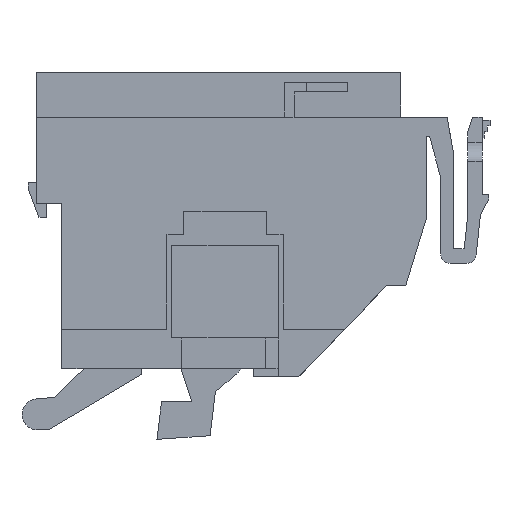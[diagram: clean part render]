
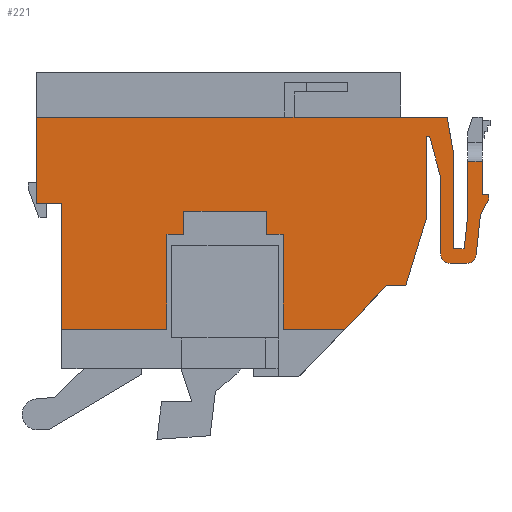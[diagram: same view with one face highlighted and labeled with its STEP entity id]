
A CAD part, front view. The second image highlights one B-rep face of the part: STEP entity #221.
In plain terms, the highlighted planar face has unit normal (0, -1, 0).
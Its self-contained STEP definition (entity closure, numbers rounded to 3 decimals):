
#75=CIRCLE('',#6119,1.);
#76=CIRCLE('',#6120,1.);
#221=ADVANCED_FACE('',(#770),#507,.T.);
#507=PLANE('',#6121);
#770=FACE_OUTER_BOUND('',#1052,.T.);
#1052=EDGE_LOOP('',(#1860,#1861,#1862,#1863,#1864,#1865,#1866,#1867,#1868,
#1869,#1870,#1871,#1872,#1873,#1874,#1875,#1876,#1877,#1878,#1879,#1880,
#1881,#1882,#1883,#1884,#1885,#1886,#1887,#1888,#1889,#1890,#1891,#1892,
#1893));
#1860=ORIENTED_EDGE('',*,*,#3642,.F.);
#1861=ORIENTED_EDGE('',*,*,#4017,.F.);
#1862=ORIENTED_EDGE('',*,*,#4018,.F.);
#1863=ORIENTED_EDGE('',*,*,#4019,.F.);
#1864=ORIENTED_EDGE('',*,*,#4020,.F.);
#1865=ORIENTED_EDGE('',*,*,#4021,.F.);
#1866=ORIENTED_EDGE('',*,*,#4022,.F.);
#1867=ORIENTED_EDGE('',*,*,#3647,.T.);
#1868=ORIENTED_EDGE('',*,*,#4023,.T.);
#1869=ORIENTED_EDGE('',*,*,#3891,.T.);
#1870=ORIENTED_EDGE('',*,*,#3917,.T.);
#1871=ORIENTED_EDGE('',*,*,#4024,.T.);
#1872=ORIENTED_EDGE('',*,*,#4025,.T.);
#1873=ORIENTED_EDGE('',*,*,#4026,.T.);
#1874=ORIENTED_EDGE('',*,*,#4027,.T.);
#1875=ORIENTED_EDGE('',*,*,#4028,.T.);
#1876=ORIENTED_EDGE('',*,*,#4029,.T.);
#1877=ORIENTED_EDGE('',*,*,#4030,.T.);
#1878=ORIENTED_EDGE('',*,*,#4031,.T.);
#1879=ORIENTED_EDGE('',*,*,#4032,.T.);
#1880=ORIENTED_EDGE('',*,*,#4033,.T.);
#1881=ORIENTED_EDGE('',*,*,#4034,.T.);
#1882=ORIENTED_EDGE('',*,*,#4035,.T.);
#1883=ORIENTED_EDGE('',*,*,#4036,.F.);
#1884=ORIENTED_EDGE('',*,*,#4037,.T.);
#1885=ORIENTED_EDGE('',*,*,#4038,.T.);
#1886=ORIENTED_EDGE('',*,*,#4039,.T.);
#1887=ORIENTED_EDGE('',*,*,#4040,.T.);
#1888=ORIENTED_EDGE('',*,*,#4041,.T.);
#1889=ORIENTED_EDGE('',*,*,#3579,.T.);
#1890=ORIENTED_EDGE('',*,*,#3982,.T.);
#1891=ORIENTED_EDGE('',*,*,#3980,.F.);
#1892=ORIENTED_EDGE('',*,*,#3940,.T.);
#1893=ORIENTED_EDGE('',*,*,#3931,.T.);
#3009=VERTEX_POINT('',#7894);
#3010=VERTEX_POINT('',#7896);
#3066=VERTEX_POINT('',#8021);
#3069=VERTEX_POINT('',#8026);
#3074=VERTEX_POINT('',#8039);
#3075=VERTEX_POINT('',#8040);
#3269=VERTEX_POINT('',#8514);
#3270=VERTEX_POINT('',#8516);
#3288=VERTEX_POINT('',#8565);
#3298=VERTEX_POINT('',#8595);
#3304=VERTEX_POINT('',#8613);
#3326=VERTEX_POINT('',#8677);
#3353=VERTEX_POINT('',#8755);
#3354=VERTEX_POINT('',#8757);
#3355=VERTEX_POINT('',#8759);
#3356=VERTEX_POINT('',#8761);
#3357=VERTEX_POINT('',#8763);
#3358=VERTEX_POINT('',#8767);
#3359=VERTEX_POINT('',#8769);
#3360=VERTEX_POINT('',#8771);
#3361=VERTEX_POINT('',#8773);
#3362=VERTEX_POINT('',#8775);
#3363=VERTEX_POINT('',#8777);
#3364=VERTEX_POINT('',#8779);
#3365=VERTEX_POINT('',#8781);
#3366=VERTEX_POINT('',#8783);
#3367=VERTEX_POINT('',#8785);
#3368=VERTEX_POINT('',#8787);
#3369=VERTEX_POINT('',#8789);
#3370=VERTEX_POINT('',#8791);
#3371=VERTEX_POINT('',#8793);
#3372=VERTEX_POINT('',#8795);
#3373=VERTEX_POINT('',#8797);
#3374=VERTEX_POINT('',#8799);
#3579=EDGE_CURVE('',#3010,#3009,#4434,.T.);
#3642=EDGE_CURVE('',#3069,#3066,#4496,.T.);
#3647=EDGE_CURVE('',#3074,#3075,#4501,.T.);
#3891=EDGE_CURVE('',#3269,#3270,#4734,.T.);
#3917=EDGE_CURVE('',#3270,#3288,#4760,.T.);
#3931=EDGE_CURVE('',#3298,#3066,#4774,.T.);
#3940=EDGE_CURVE('',#3304,#3298,#4783,.T.);
#3980=EDGE_CURVE('',#3304,#3326,#4823,.T.);
#3982=EDGE_CURVE('',#3009,#3326,#4825,.T.);
#4017=EDGE_CURVE('',#3353,#3069,#4860,.T.);
#4018=EDGE_CURVE('',#3354,#3353,#4861,.T.);
#4019=EDGE_CURVE('',#3355,#3354,#4862,.T.);
#4020=EDGE_CURVE('',#3356,#3355,#4863,.T.);
#4021=EDGE_CURVE('',#3357,#3356,#4864,.T.);
#4022=EDGE_CURVE('',#3074,#3357,#4865,.T.);
#4023=EDGE_CURVE('',#3075,#3269,#4866,.T.);
#4024=EDGE_CURVE('',#3288,#3358,#4867,.T.);
#4025=EDGE_CURVE('',#3358,#3359,#4868,.T.);
#4026=EDGE_CURVE('',#3359,#3360,#4869,.T.);
#4027=EDGE_CURVE('',#3360,#3361,#4870,.T.);
#4028=EDGE_CURVE('',#3361,#3362,#75,.T.);
#4029=EDGE_CURVE('',#3362,#3363,#4871,.T.);
#4030=EDGE_CURVE('',#3363,#3364,#76,.T.);
#4031=EDGE_CURVE('',#3364,#3365,#4872,.T.);
#4032=EDGE_CURVE('',#3365,#3366,#4873,.T.);
#4033=EDGE_CURVE('',#3366,#3367,#4874,.T.);
#4034=EDGE_CURVE('',#3367,#3368,#4875,.T.);
#4035=EDGE_CURVE('',#3368,#3369,#4876,.T.);
#4036=EDGE_CURVE('',#3370,#3369,#4877,.T.);
#4037=EDGE_CURVE('',#3370,#3371,#4878,.T.);
#4038=EDGE_CURVE('',#3371,#3372,#4879,.T.);
#4039=EDGE_CURVE('',#3372,#3373,#4880,.T.);
#4040=EDGE_CURVE('',#3373,#3374,#4881,.T.);
#4041=EDGE_CURVE('',#3374,#3010,#4882,.T.);
#4434=LINE('',#7895,#5244);
#4496=LINE('',#8027,#5306);
#4501=LINE('',#8038,#5311);
#4734=LINE('',#8517,#5544);
#4760=LINE('',#8566,#5570);
#4774=LINE('',#8594,#5584);
#4783=LINE('',#8612,#5593);
#4823=LINE('',#8680,#5633);
#4825=LINE('',#8684,#5635);
#4860=LINE('',#8754,#5670);
#4861=LINE('',#8756,#5671);
#4862=LINE('',#8758,#5672);
#4863=LINE('',#8760,#5673);
#4864=LINE('',#8762,#5674);
#4865=LINE('',#8764,#5675);
#4866=LINE('',#8765,#5676);
#4867=LINE('',#8766,#5677);
#4868=LINE('',#8768,#5678);
#4869=LINE('',#8770,#5679);
#4870=LINE('',#8772,#5680);
#4871=LINE('',#8776,#5681);
#4872=LINE('',#8780,#5682);
#4873=LINE('',#8782,#5683);
#4874=LINE('',#8784,#5684);
#4875=LINE('',#8786,#5685);
#4876=LINE('',#8788,#5686);
#4877=LINE('',#8790,#5687);
#4878=LINE('',#8792,#5688);
#4879=LINE('',#8794,#5689);
#4880=LINE('',#8796,#5690);
#4881=LINE('',#8798,#5691);
#4882=LINE('',#8800,#5692);
#5244=VECTOR('',#6393,1.);
#5306=VECTOR('',#6475,1.);
#5311=VECTOR('',#6484,1.);
#5544=VECTOR('',#6815,1.);
#5570=VECTOR('',#6851,1.);
#5584=VECTOR('',#6875,1.);
#5593=VECTOR('',#6890,1.);
#5633=VECTOR('',#6940,1.);
#5635=VECTOR('',#6944,1.);
#5670=VECTOR('',#6999,1.);
#5671=VECTOR('',#7000,1.);
#5672=VECTOR('',#7001,1.);
#5673=VECTOR('',#7002,1.);
#5674=VECTOR('',#7003,1.);
#5675=VECTOR('',#7004,1.);
#5676=VECTOR('',#7005,1.);
#5677=VECTOR('',#7006,1.);
#5678=VECTOR('',#7007,1.);
#5679=VECTOR('',#7008,1.);
#5680=VECTOR('',#7009,1.);
#5681=VECTOR('',#7012,1.);
#5682=VECTOR('',#7015,1.);
#5683=VECTOR('',#7016,1.);
#5684=VECTOR('',#7017,1.);
#5685=VECTOR('',#7018,1.);
#5686=VECTOR('',#7019,1.);
#5687=VECTOR('',#7020,1.);
#5688=VECTOR('',#7021,1.);
#5689=VECTOR('',#7022,1.);
#5690=VECTOR('',#7023,1.);
#5691=VECTOR('',#7024,1.);
#5692=VECTOR('',#7025,1.);
#6119=AXIS2_PLACEMENT_3D('',#8774,#7010,#7011);
#6120=AXIS2_PLACEMENT_3D('',#8778,#7013,#7014);
#6121=AXIS2_PLACEMENT_3D('',#8801,#7026,#7027);
#6393=DIRECTION('',(-1.,0.,0.));
#6475=DIRECTION('',(0.,0.,-1.));
#6484=DIRECTION('',(1.,0.,0.));
#6815=DIRECTION('',(1.,0.,0.));
#6851=DIRECTION('',(0.292,0.,0.956));
#6875=DIRECTION('',(1.,0.,0.));
#6890=DIRECTION('',(0.,0.,-1.));
#6940=DIRECTION('',(-1.,0.,0.));
#6944=DIRECTION('',(0.,0.,-1.));
#6999=DIRECTION('',(-1.,0.,0.));
#7000=DIRECTION('',(0.,0.,-1.));
#7001=DIRECTION('',(-1.,0.,0.));
#7002=DIRECTION('',(0.,0.,1.));
#7003=DIRECTION('',(-1.,0.,0.));
#7004=DIRECTION('',(0.,0.,1.));
#7005=DIRECTION('',(0.693,0.,0.721));
#7006=DIRECTION('',(0.,0.,1.));
#7007=DIRECTION('',(1.,0.,0.));
#7008=DIRECTION('',(0.259,0.,-0.966));
#7009=DIRECTION('',(0.,0.,-1.));
#7010=DIRECTION('',(0.,-1.,0.));
#7011=DIRECTION('',(-1.,0.,0.));
#7012=DIRECTION('',(1.,0.,0.));
#7013=DIRECTION('',(0.,-1.,0.));
#7014=DIRECTION('',(-1.,0.,0.));
#7015=DIRECTION('',(0.105,0.,0.995));
#7016=DIRECTION('',(0.444,0.,0.896));
#7017=DIRECTION('',(0.,0.,1.));
#7018=DIRECTION('',(-1.,0.,0.));
#7019=DIRECTION('',(0.,0.,1.));
#7020=DIRECTION('',(1.,0.,0.));
#7021=DIRECTION('',(0.,0.,-1.));
#7022=DIRECTION('',(-0.105,0.,-0.995));
#7023=DIRECTION('',(-1.,0.,0.));
#7024=DIRECTION('',(0.,0.,1.));
#7025=DIRECTION('',(-0.174,0.,0.985));
#7026=DIRECTION('',(0.,-1.,0.));
#7027=DIRECTION('',(0.,0.,1.));
#7894=CARTESIAN_POINT('',(-37.6,-13.15,-4.6));
#7895=CARTESIAN_POINT('',(2.6,-13.15,-4.6));
#7896=CARTESIAN_POINT('',(4.776,-13.15,-4.6));
#8021=CARTESIAN_POINT('',(-24.153,-13.15,-26.5));
#8026=CARTESIAN_POINT('',(-24.153,-13.15,-16.7));
#8027=CARTESIAN_POINT('',(-24.153,-13.15,-16.7));
#8038=CARTESIAN_POINT('',(-35.,-13.15,-26.5));
#8039=CARTESIAN_POINT('',(-12.153,-13.15,-26.5));
#8040=CARTESIAN_POINT('',(-5.808,-13.15,-26.5));
#8514=CARTESIAN_POINT('',(-1.477,-13.15,-22.));
#8516=CARTESIAN_POINT('',(0.5,-13.15,-22.));
#8517=CARTESIAN_POINT('',(-29.5,-13.15,-22.));
#8565=CARTESIAN_POINT('',(2.6,-13.15,-15.131));
#8566=CARTESIAN_POINT('',(0.5,-13.15,-22.));
#8594=CARTESIAN_POINT('',(-35.,-13.15,-26.5));
#8595=CARTESIAN_POINT('',(-35.,-13.15,-26.5));
#8612=CARTESIAN_POINT('',(-35.,-13.15,-22.));
#8613=CARTESIAN_POINT('',(-35.,-13.15,-13.55));
#8677=CARTESIAN_POINT('',(-37.6,-13.15,-13.55));
#8680=CARTESIAN_POINT('',(-35.,-13.15,-13.55));
#8684=CARTESIAN_POINT('',(-37.6,-13.15,-4.6));
#8754=CARTESIAN_POINT('',(-22.403,-13.15,-16.7));
#8755=CARTESIAN_POINT('',(-22.403,-13.15,-16.7));
#8756=CARTESIAN_POINT('',(-22.403,-13.15,-14.3));
#8757=CARTESIAN_POINT('',(-22.403,-13.15,-14.3));
#8758=CARTESIAN_POINT('',(-13.903,-13.15,-14.3));
#8759=CARTESIAN_POINT('',(-13.903,-13.15,-14.3));
#8760=CARTESIAN_POINT('',(-13.903,-13.15,-16.7));
#8761=CARTESIAN_POINT('',(-13.903,-13.15,-16.7));
#8762=CARTESIAN_POINT('',(-12.153,-13.15,-16.7));
#8763=CARTESIAN_POINT('',(-12.153,-13.15,-16.7));
#8764=CARTESIAN_POINT('',(-12.153,-13.15,-26.5));
#8765=CARTESIAN_POINT('',(-5.808,-13.15,-26.5));
#8766=CARTESIAN_POINT('',(2.6,-13.15,-15.131));
#8767=CARTESIAN_POINT('',(2.6,-13.15,-6.6));
#8768=CARTESIAN_POINT('',(2.6,-13.15,-6.6));
#8769=CARTESIAN_POINT('',(2.969,-13.15,-6.6));
#8770=CARTESIAN_POINT('',(2.969,-13.15,-6.6));
#8771=CARTESIAN_POINT('',(4.1,-13.15,-10.823));
#8772=CARTESIAN_POINT('',(4.1,-13.15,-10.823));
#8773=CARTESIAN_POINT('',(4.1,-13.15,-18.7));
#8774=CARTESIAN_POINT('',(5.1,-13.15,-18.7));
#8775=CARTESIAN_POINT('',(5.1,-13.15,-19.7));
#8776=CARTESIAN_POINT('',(5.1,-13.15,-19.7));
#8777=CARTESIAN_POINT('',(6.785,-13.15,-19.7));
#8778=CARTESIAN_POINT('',(6.785,-13.15,-18.7));
#8779=CARTESIAN_POINT('',(7.779,-13.15,-18.805));
#8780=CARTESIAN_POINT('',(7.779,-13.15,-18.805));
#8781=CARTESIAN_POINT('',(8.204,-13.15,-14.759));
#8782=CARTESIAN_POINT('',(8.204,-13.15,-14.759));
#8783=CARTESIAN_POINT('',(9.05,-13.15,-13.052));
#8784=CARTESIAN_POINT('',(9.05,-13.15,-13.052));
#8785=CARTESIAN_POINT('',(9.05,-13.15,-12.6));
#8786=CARTESIAN_POINT('',(9.05,-13.15,-12.6));
#8787=CARTESIAN_POINT('',(8.4,-13.15,-12.6));
#8788=CARTESIAN_POINT('',(8.4,-13.15,-12.6));
#8789=CARTESIAN_POINT('',(8.4,-13.15,-9.2));
#8790=CARTESIAN_POINT('',(6.4,-13.15,-9.2));
#8791=CARTESIAN_POINT('',(6.9,-13.15,-9.2));
#8792=CARTESIAN_POINT('',(6.9,-13.15,-4.6));
#8793=CARTESIAN_POINT('',(6.9,-13.15,-14.732));
#8794=CARTESIAN_POINT('',(6.9,-13.15,-14.732));
#8795=CARTESIAN_POINT('',(6.535,-13.15,-18.2));
#8796=CARTESIAN_POINT('',(6.535,-13.15,-18.2));
#8797=CARTESIAN_POINT('',(5.4,-13.15,-18.2));
#8798=CARTESIAN_POINT('',(5.4,-13.15,-18.2));
#8799=CARTESIAN_POINT('',(5.4,-13.15,-8.14));
#8800=CARTESIAN_POINT('',(5.4,-13.15,-8.14));
#8801=CARTESIAN_POINT('',(0.,-13.15,0.));
